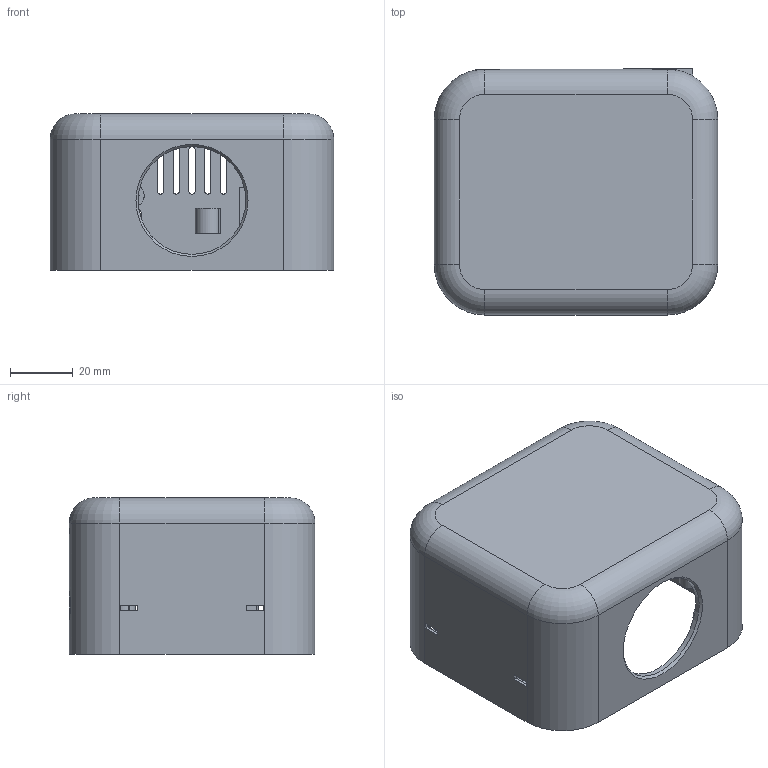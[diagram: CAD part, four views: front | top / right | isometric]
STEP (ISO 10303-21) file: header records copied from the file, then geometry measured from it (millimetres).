
FILE_DESCRIPTION(('Open CASCADE Model'),'2;1');
FILE_NAME('Open CASCADE Shape Model','2026-10-01T12:35:20',('Author'),( 'Open CASCADE'),'Open CASCADE STEP processor 7.8','Open CASCADE 7.8' ,'Unknown');
FILE_SCHEMA(('AUTOMOTIVE_DESIGN { 1 0 10303 214 1 1 1 1 }'));
Length unit declared in the file: millimetre
Products named in the file (2): P01_Upper_shell; P01_Upper_shell_solid
Assembly tree (1 placements, depth 2):
  P01_Upper_shell
    P01_Upper_shell_solid
Bounding box: 90 x 78.1 x 49.65 mm (x, y, z)
Volume: 51494.5 mm3; surface area: 46247.3 mm2
Topology: 1 solids, 1 shells, 416 faces, 1152 edges, 755 vertices
Faces by surface type: plane 250, cylinder 93, extrusion 64, torus 8, cone 1
Full cylindrical faces by diameter (mm): 4.4 x14, 6.6 x1, 7.6 x3, 8 x6, 26 x1, 34.2 x1
Entity records: 30153 total; most frequent: CARTESIAN_POINT 8517, DIRECTION 3475, ORIENTED_EDGE 2304, PCURVE 2304, DEFINITIONAL_REPRESENTATION 2304, VECTOR 2144, LINE 2080, EDGE_CURVE 1152
